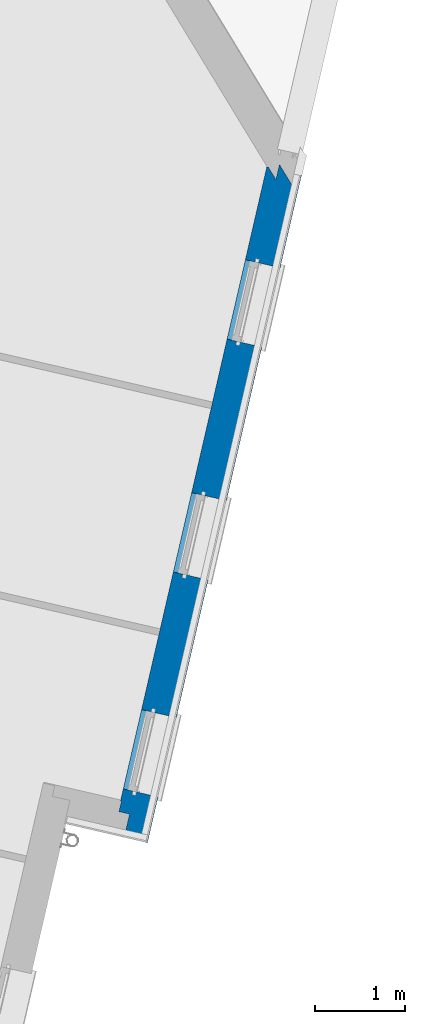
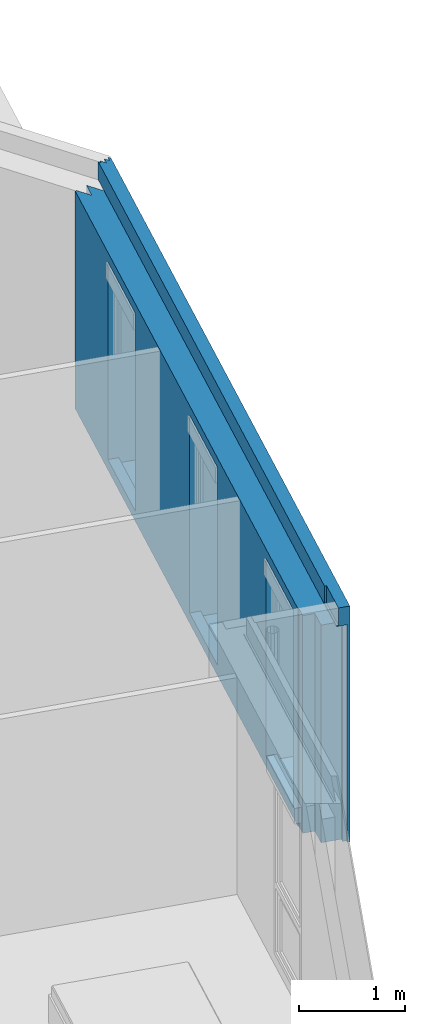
# One storey, part 32 of 91: 1 wall, 3 openings.
"""IFC2X3 building model written with IfcOpenShell, lengths in metres."""

import ifcopenshell
import ifcopenshell.guid

model = None  # the IFC model being written
_history = None  # IfcOwnerHistory: only IFC2X3 demands one
_inside = {}  # id of a spatial element -> (the spatial element, [elements in it])
_under = {}  # id of a project, library or spatial element -> (it, [spatial elements below it])
_declared = {}  # id of a project -> (the project, [libraries it declares])
_typed = {}  # id of a type object -> (the type object, [elements of that type])
_made_of = {}  # id of a material, layer set ... -> (it, [elements and type objects made of it])


def new_model(schema):
    """Start an empty IFC model of exactly this schema.

    Asked for "IFC4X3", IfcOpenShell would pick the latest addendum, in which some entities
    have other attributes; the version numbers below select the first issue.
    IFC2X3 requires an IfcOwnerHistory on every rooted entity: one is made here for all.
    """
    global model, _history
    if schema == "IFC4X3":
        model = ifcopenshell.file(schema_version=(4, 3, 0, 0))
    else:
        model = ifcopenshell.file(schema=schema)
    _inside.clear()
    _under.clear()
    _declared.clear()
    _typed.clear()
    _made_of.clear()
    _history = None
    if model.schema == "IFC2X3":
        org = make("IfcOrganization", Name="unknown")
        user = make(
            "IfcPersonAndOrganization",
            ThePerson=make("IfcPerson", FamilyName="unknown"),
            TheOrganization=org,
        )
        app = make(
            "IfcApplication",
            ApplicationDeveloper=org,
            Version="unknown",
            ApplicationFullName="unknown",
            ApplicationIdentifier="unknown",
        )
        _history = make(
            "IfcOwnerHistory",
            OwningUser=user,
            OwningApplication=app,
            ChangeAction="ADDED",
            CreationDate=0,
        )
    return model


def make(cls, **values):
    """One entity of the class cls with the attributes given. An attribute that is None is left unset."""
    return model.create_entity(
        cls, **{name: value for name, value in values.items() if value is not None}
    )


def entity(cls, *values):
    """Any entity or typed value of the class cls, its attributes in the order of the schema. None: left unset."""
    e = model.create_entity(cls)
    for i, value in enumerate(values):
        if value is not None:
            e[i] = value
    return e


def rooted(cls, **values):
    """An entity with a GlobalId (a new one), such as an element, a storey or a relation."""
    return make(cls, GlobalId=ifcopenshell.guid.new(), OwnerHistory=_history, **values)


def si_unit(unit_type, name, prefix=None):
    """IfcSIUnit, for example si_unit("LENGTHUNIT", "METRE", prefix="MILLI")."""
    return make("IfcSIUnit", UnitType=unit_type, Prefix=prefix, Name=name)


def converted_unit(unit_type, name, factor, base, dimensions=None, offset=None):
    """IfcConversionBasedUnit, such as the inch: factor (a typed value) times the base unit."""
    return make(
        "IfcConversionBasedUnit"
        if offset is None
        else "IfcConversionBasedUnitWithOffset",
        ConversionOffset=offset,
        Dimensions=None
        if dimensions is None
        else entity("IfcDimensionalExponents", *dimensions),
        UnitType=unit_type,
        Name=name,
        ConversionFactor=make(
            "IfcMeasureWithUnit", ValueComponent=factor, UnitComponent=base
        ),
    )


def derived_unit(unit_type, elements):
    """IfcDerivedUnit: a product of units, each with its exponent."""
    return make(
        "IfcDerivedUnit",
        Elements=[
            make("IfcDerivedUnitElement", Unit=unit, Exponent=power)
            for unit, power in elements
        ],
        UnitType=unit_type,
    )


def money_unit(currency):
    """IfcMonetaryUnit."""
    return make("IfcMonetaryUnit", Currency=currency)


def assignment(units):
    """IfcUnitAssignment: the units of a project."""
    return None if units is None else make("IfcUnitAssignment", Units=units)


def point(xyz):
    """IfcCartesianPoint."""
    return None if xyz is None else make("IfcCartesianPoint", Coordinates=xyz)


def direction(xyz):
    """IfcDirection."""
    return None if xyz is None else make("IfcDirection", DirectionRatios=xyz)


def frame(location, z_axis=None, x_axis=None):
    """IfcAxis2Placement3D, a coordinate frame: its origin and axes. An axis left out is left unset."""
    return make(
        "IfcAxis2Placement3D",
        Location=point(location),
        Axis=direction(z_axis),
        RefDirection=direction(x_axis),
    )


def origin_with_axes():
    """The frame at (0, 0, 0) with the z axis (0, 0, 1) and the x axis (1, 0, 0) written out."""
    return frame((0.0, 0.0, 0.0), z_axis=(0.0, 0.0, 1.0), x_axis=(1.0, 0.0, 0.0))


def place(relative_to, where):
    """IfcLocalPlacement: puts the frame where relative to a parent placement (None: the world)."""
    return make(
        "IfcLocalPlacement", PlacementRelTo=relative_to, RelativePlacement=where
    )


def context(
    kind, dimensions, precision=None, world=None, true_north=None, identifier=None
):
    """IfcGeometricRepresentationContext, for example the 3D "Model" context."""
    return make(
        "IfcGeometricRepresentationContext",
        ContextIdentifier=identifier,
        ContextType=kind,
        CoordinateSpaceDimension=dimensions,
        Precision=precision,
        WorldCoordinateSystem=world,
        TrueNorth=true_north,
    )


def subcontext(parent, identifier, kind, view, scale=None):
    """IfcGeometricRepresentationSubContext, for example "Body" below "Model"."""
    return make(
        "IfcGeometricRepresentationSubContext",
        ContextIdentifier=identifier,
        ContextType=kind,
        ParentContext=parent,
        TargetScale=scale,
        TargetView=view,
    )


def project(units=None, contexts=None):
    """IfcProject with its units and contexts."""
    return rooted(
        "IfcProject",
        Name="project",
        RepresentationContexts=contexts,
        UnitsInContext=assignment(units),
    )


def spatial(cls, under=None, at=None, **own):
    """A site, building, storey or space (cls), placed at a placement, below another one or the project."""
    s = rooted(cls, ObjectPlacement=at, **own)
    if under is not None:
        _under.setdefault(under.id(), (under, []))[1].append(s)
    return s


def faces_of(points, faces, orient=None, outer=None):
    """IfcFace entities. A face is a list of loops; a loop is a list of indices into points, from 0.

    orient and outer hold one flag for each loop. By default every Orientation is true, the
    first loop of a face is its IfcFaceOuterBound and the others are IfcFaceBound.
    """
    made = []
    for i, loops in enumerate(faces):
        bounds = []
        for j, loop in enumerate(loops):
            is_outer = j == 0 if outer is None else outer[i][j]
            bounds.append(
                make(
                    "IfcFaceOuterBound" if is_outer else "IfcFaceBound",
                    Bound=make("IfcPolyLoop", Polygon=[points[k] for k in loop]),
                    Orientation=True if orient is None else orient[i][j],
                )
            )
        made.append(make("IfcFace", Bounds=bounds))
    return made


def faceted_brep(points, faces, orient=None, outer=None, voids=None):
    """IfcFacetedBrep: a solid bounded by flat faces; with voids (closed shells), ...WithVoids."""
    shared = [point(p) for p in points]
    hull = make("IfcClosedShell", CfsFaces=faces_of(shared, faces, orient, outer))
    if voids is None:
        return make("IfcFacetedBrep", Outer=hull)
    return make(
        "IfcFacetedBrepWithVoids",
        Outer=hull,
        Voids=[
            make(cls, CfsFaces=faces_of(shared, fs, o, b)) for cls, fs, o, b in voids
        ],
    )


def shape(context_of_items, identifier, shape_type, items):
    """IfcShapeRepresentation: the items that make up one representation, for example the "Body"."""
    return make(
        "IfcShapeRepresentation",
        ContextOfItems=context_of_items,
        RepresentationIdentifier=identifier,
        RepresentationType=shape_type,
        Items=items,
    )


def material(Name=None, Category=None):
    """IfcMaterial."""
    return make("IfcMaterial", Name=Name, Category=Category)


def material_list(materials):
    """IfcMaterialList."""
    return make("IfcMaterialList", Materials=materials)


def made_of(thing, what):
    """Note that an element or type object is made of a material, layer set ...; save() writes the relation."""
    if what is not None:
        _made_of.setdefault(what.id(), (what, []))[1].append(thing)
    return thing


def type_object(cls, material=None, **own):
    """A type object (cls), such as IfcWallType, which elements share."""
    return made_of(rooted(cls, **own), material)


def element(
    cls,
    number,
    at=None,
    inside=None,
    cuts=None,
    type_object=None,
    material=None,
    context=None,
    identifier="Body",
    shape_type=None,
    held_by="IfcProductDefinitionShape",
    body=None,
    shapes=None,
    **own,
):
    """One element of the class cls, such as IfcWall. Its Tag is "e" and its number.

    at: its placement. inside: the storey or other place that contains it. cuts: it is an
    opening in that element (IfcRelVoidsElement). A single representation is given by context,
    identifier, shape_type and body (its items); several are given by shapes. held_by: the class
    of the entity that holds the representations. save() writes the other relations.
    """
    e = rooted(cls, Tag="e%d" % number, ObjectPlacement=at, **own)
    if body is not None:
        shapes = [shape(context, identifier, shape_type, body)]
    if shapes is not None:
        e.Representation = make(held_by, Representations=shapes)
    if inside is not None:
        _inside.setdefault(inside.id(), (inside, []))[1].append(e)
    if cuts is not None:
        rooted(
            "IfcRelVoidsElement", RelatingBuildingElement=cuts, RelatedOpeningElement=e
        )
    if type_object is not None:
        _typed.setdefault(type_object.id(), (type_object, []))[1].append(e)
    return made_of(e, material)


def aggregate(whole, parts):
    """IfcRelAggregates: a whole, such as a stair, and the parts it consists of."""
    return rooted("IfcRelAggregates", RelatingObject=whole, RelatedObjects=parts)


def save(model, path):
    """Write the relations noted so far, then the file.

    IfcRelAggregates (storeys below a building ...), IfcRelContainedInSpatialStructure (elements
    in a storey), IfcRelDefinesByType, IfcRelAssociatesMaterial and IfcRelDeclares: one each for
    every whole, place, type object, material and project.
    """
    for whole, parts in _under.values():
        aggregate(whole, parts)
    for where, things in _inside.values():
        rooted(
            "IfcRelContainedInSpatialStructure",
            RelatedElements=things,
            RelatingStructure=where,
        )
    for kind, things in _typed.values():
        rooted("IfcRelDefinesByType", RelatedObjects=things, RelatingType=kind)
    for what, things in _made_of.values():
        rooted("IfcRelAssociatesMaterial", RelatedObjects=things, RelatingMaterial=what)
    for by, libraries in _declared.values():
        rooted("IfcRelDeclares", RelatingContext=by, RelatedDefinitions=libraries)
    model.write(path)


model = new_model("IFC2X3")

# Units and contexts
model_context = context("Model", 3, precision=1e-05, world=origin_with_axes(), true_north=direction((0.0, 1.0)))
body_context = subcontext(model_context, "Body", "Model", "MODEL_VIEW")
ifc_project = project(units=[si_unit("LENGTHUNIT", "METRE"), si_unit("AREAUNIT", "SQUARE_METRE"), si_unit("VOLUMEUNIT", "CUBIC_METRE"), converted_unit("PLANEANGLEUNIT", "DEGREE", entity("IfcPlaneAngleMeasure", 0.0174532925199), si_unit("PLANEANGLEUNIT", "RADIAN"), dimensions=[0, 0, 0, 0, 0, 0, 0]), si_unit("SOLIDANGLEUNIT", "STERADIAN"), money_unit("EUR"), converted_unit("TIMEUNIT", "Year", entity("IfcTimeMeasure", 31556926.0), si_unit("TIMEUNIT", "SECOND"), dimensions=[0, 0, 1, 0, 0, 0, 0]), si_unit("MASSUNIT", "GRAM", prefix="KILO"), si_unit("THERMODYNAMICTEMPERATUREUNIT", "DEGREE_CELSIUS"), si_unit("LUMINOUSINTENSITYUNIT", "LUMEN"), si_unit("ENERGYUNIT", "JOULE", prefix="MEGA"), derived_unit("THERMALCONDUCTANCEUNIT", [(si_unit("POWERUNIT", "WATT"), 1), (si_unit("LENGTHUNIT", "METRE"), -1), (si_unit("THERMODYNAMICTEMPERATUREUNIT", "KELVIN"), -1)]), derived_unit("SPECIFICHEATCAPACITYUNIT", [(si_unit("ENERGYUNIT", "JOULE"), 1), (si_unit("MASSUNIT", "GRAM", prefix="KILO"), -1), (si_unit("THERMODYNAMICTEMPERATUREUNIT", "KELVIN"), -1)]), derived_unit("MASSDENSITYUNIT", [(si_unit("MASSUNIT", "GRAM", prefix="KILO"), 1), (si_unit("VOLUMEUNIT", "CUBIC_METRE"), -1)])], contexts=[model_context])

# Site, building, storey
site_placement = place(None, origin_with_axes())
site = spatial("IfcSite", under=ifc_project, at=site_placement, Name="Site", CompositionType="ELEMENT")
building_placement = place(site_placement, origin_with_axes())
building = spatial("IfcBuilding", under=site, at=building_placement, Name="Bâtiment", CompositionType="ELEMENT")
storey_placement = place(building_placement, frame((0.0, 0.0, 5.44), z_axis=(0.0, 0.0, 1.0), x_axis=(1.0, 0.0, 0.0)))
storey = spatial("IfcBuildingStorey", under=building, at=storey_placement, Name="R+2", CompositionType="ELEMENT", Elevation=5.44)

# Wall, openings
ifc_material_1 = material(Name="Finition ext - Bardage bois")
ifc_material_2 = material(Name="Bois - Lattage")
ifc_material_3 = material(Name="Béton cellulaire")
ifc_material_4 = material(Name="Mortier")
ifc_material_5 = material(Name="Isolation - Polystyrène expansé")
ifc_material_6 = material(Name="Bloc ELITHERM")
ifc_material_7 = material(Name="Isolation - Polystyrène extrudé")
ifc_material_8 = material(Name="Finition int - Plaque de plâtre")
ifc_material_list = material_list([ifc_material_1, ifc_material_2, ifc_material_3, ifc_material_4, ifc_material_5, ifc_material_6, ifc_material_7, ifc_material_8])
wall_type = type_object("IfcWallType", Name="Mur ALKERN + planelle 21 BARDAGE courant 395 x 2720", PredefinedType="USERDEFINED")
wall_placement = place(storey_placement, frame((1.48840599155, 13.9724829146, 0.0), z_axis=(0.0, 0.0, 1.0), x_axis=(-0.224876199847, -0.974387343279, 0.0)))
wall = element("IfcWall", 1, at=wall_placement, inside=storey, type_object=wall_type, material=ifc_material_list, Name="Mue bloc ALKERN isolé", ObjectType="SOLIDWALL", context=body_context, shape_type="Brep", body=[
    faceted_brep([(1.27823986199, 0.0100000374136, 0.12), (1.27823986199, 0.035, 0.12), (1.27823986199, 0.035, 2.22), (1.27823986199, 0.0100000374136, 2.22), (1.27823986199, 0.0350003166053, 0.06), (1.27823986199, 0.01000000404, 0.06), (0.150454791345, 0.035, 0.4), (0.143294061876, 0.0350000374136, 0.4), (0.0931686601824, 0.0350000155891, 0.4), (0.0931689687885, 0.0350003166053, 2.72000000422), (7.80445252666, 0.0350000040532, 2.71999999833), (7.80445254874, 0.035, 2.51000000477), (7.80445254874, 0.035, 0.0), (0.150454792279, 0.035, 0.0), (0.150454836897, 0.035, 0.110000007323), (0.136133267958, 0.035, 0.110000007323), (0.136133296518, 0.035, 0.200000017), (0.0535138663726, 0.035, 0.2), (0.0535138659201, 0.0350000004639, 0.229999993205), (0.136133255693, 0.035, 0.230000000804), (0.150454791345, 0.035, 0.230000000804), (7.28324840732, 0.035, 0.06), (7.28324840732, 0.0350003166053, 0.12), (7.28324840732, 0.0350003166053, 2.22), (6.38324840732, 0.0350003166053, 2.22), (6.38324840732, 0.0350003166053, 0.12), (6.38324840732, 0.035, 0.06), (4.82071635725, 0.035, 0.06), (4.82071635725, 0.0350000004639, 0.12), (4.82071635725, 0.0350000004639, 2.22), (3.92071635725, 0.0350000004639, 2.22), (3.92071635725, 0.0350000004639, 0.12), (3.92071635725, 0.035, 0.06), (2.17823986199, 0.0350003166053, 0.06), (2.17823986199, 0.035, 0.12), (2.17823986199, 0.035, 2.22), (2.17823986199, 0.0100000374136, 2.22), (0.124824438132, 0.01, 0.0), (7.80445254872, 0.01, 0.0), (7.80445254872, 0.01, 2.51000000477), (7.80445252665, 0.01000000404, 2.71999999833), (0.0675386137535, 0.0100003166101, 2.72000000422), (0.0675383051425, 0.0100000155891, 0.4), (0.117663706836, 0.0100000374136, 0.4), (0.124824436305, 0.01, 0.4), (0.124824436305, 0.01, 0.230000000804), (0.110502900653, 0.01, 0.230000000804), (0.0278835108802, 0.0100000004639, 0.229999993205), (0.0278835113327, 0.01, 0.2), (0.110502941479, 0.01, 0.200000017), (0.110502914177, 0.01, 0.110000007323), (0.124824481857, 0.01, 0.110000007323), (6.38324840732, 0.01, 0.06), (6.38324840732, 0.01000000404, 0.12), (6.38324840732, 0.01000000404, 2.22), (7.28324840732, 0.01000000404, 2.22), (7.28324840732, 0.01000000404, 0.12), (7.28324840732, 0.01, 0.06), (3.92071635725, 0.01, 0.06), (3.92071635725, 0.01, 0.12), (3.92071635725, 0.01, 2.22), (4.82071635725, 0.01, 2.22), (4.82071635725, 0.01, 0.12), (4.82071635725, 0.01, 0.06), (2.17823986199, 0.0100000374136, 0.12), (2.17823986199, 0.01000000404, 0.06)], [[[0, 1, 2, 3]], [[4, 1, 0, 5]], [[6, 7, 8, 9, 10, 11, 12, 13, 14, 15, 16, 17, 18, 19, 20], [21, 22, 23, 24, 25, 26], [27, 28, 29, 30, 31, 32], [33, 34, 35, 2, 1, 4]], [[35, 36, 3, 2]], [[37, 38, 39, 40, 41, 42, 43, 44, 45, 46, 47, 48, 49, 50, 51], [52, 53, 54, 55, 56, 57], [58, 59, 60, 61, 62, 63], [5, 0, 3, 36, 64, 65]], [[33, 4, 5, 65]], [[7, 6, 44, 43]], [[8, 7, 43, 42]], [[9, 8, 42, 41]], [[41, 40, 10, 9]], [[39, 11, 10, 40]], [[12, 11, 39, 38]], [[12, 38, 37, 13]], [[14, 13, 37, 51]], [[15, 14, 51, 50]], [[16, 15, 50, 49]], [[17, 16, 49, 48]], [[18, 17, 48, 47]], [[18, 47, 46, 19]], [[19, 46, 45, 20]], [[20, 45, 44, 6]], [[56, 22, 21, 57]], [[22, 56, 55, 23]], [[23, 55, 54, 24]], [[53, 25, 24, 54]], [[26, 25, 53, 52]], [[21, 26, 52, 57]], [[27, 63, 62, 28]], [[61, 29, 28, 62]], [[60, 30, 29, 61]], [[30, 60, 59, 31]], [[59, 58, 32, 31]], [[58, 63, 27, 32]], [[64, 34, 33, 65]], [[34, 64, 36, 35]]]),
    faceted_brep([(1.27823986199, -0.0299999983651, 0.12), (1.27823986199, 0.00999999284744, 0.12), (1.27823986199, 0.00999999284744, 2.22), (1.27823986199, -0.0299999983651, 2.22), (1.27823986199, 0.00999999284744, 0.06), (1.27823986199, -0.0300000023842, 0.06), (7.7794525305, 0.00999999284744, 0.0), (0.124824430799, 0.00999999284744, 0.0), (0.124824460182, 0.0100000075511, 0.109999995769), (0.124824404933, 0.00999999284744, 0.2), (0.124824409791, 0.00999997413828, 0.230000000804), (0.124824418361, 0.0100000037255, 0.399999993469), (0.124824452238, 0.00999999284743, 2.50999999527), (0.124824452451, 0.00999999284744, 2.52000000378), (0.12482477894, 0.0100003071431, 2.72000000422), (7.80445252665, 0.00999999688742, 2.71999999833), (7.8044525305, 0.00999999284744, 2.51000000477), (7.7794525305, 0.00999999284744, 2.51000000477), (7.28324840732, 0.00999999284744, 0.06), (7.28324840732, 0.00999999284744, 0.12), (7.28324840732, 0.00999999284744, 2.22), (6.38324840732, 0.00999999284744, 2.22), (6.38324840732, 0.00999999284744, 0.12), (6.38324840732, 0.00999999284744, 0.06), (4.82071635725, 0.00999999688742, 0.06), (4.82071635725, 0.00999999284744, 0.12), (4.82071635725, 0.00999999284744, 2.22), (3.92071635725, 0.00999999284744, 2.22), (3.92071635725, 0.00999999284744, 0.12), (3.92071635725, 0.00999999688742, 0.06), (2.17823986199, 0.00999999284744, 0.06), (2.17823986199, 0.00999999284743, 0.12), (2.17823986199, 0.00999999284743, 2.22), (2.17823986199, -0.0299999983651, 2.22), (0.083815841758, -0.0300000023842, 0.2), (0.0838158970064, -0.0299999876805, 0.109999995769), (0.0838158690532, -0.0300000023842, 0.0), (7.77945253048, -0.0300000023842, 0.0), (7.77945253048, -0.0300000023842, 2.51000000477), (7.80445253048, -0.0300000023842, 2.51000000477), (7.80445252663, -0.0299999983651, 2.71999999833), (0.0838162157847, -0.029999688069, 2.72000000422), (0.0838158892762, -0.0300000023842, 2.52000000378), (0.0838158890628, -0.0300000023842, 2.50999999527), (0.083815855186, -0.0299999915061, 0.399999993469), (0.0838158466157, -0.0300000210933, 0.230000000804), (6.38324840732, -0.0300000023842, 0.06), (6.38324840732, -0.0299999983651, 0.12), (6.38324840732, -0.0299999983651, 2.22), (7.28324840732, -0.0299999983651, 2.22), (7.28324840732, -0.0299999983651, 0.12), (7.28324840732, -0.0300000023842, 0.06), (3.92071635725, -0.0300000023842, 0.06), (3.92071635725, -0.0300000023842, 0.12), (3.92071635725, -0.0300000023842, 2.22), (4.82071635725, -0.0300000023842, 2.22), (4.82071635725, -0.0300000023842, 0.12), (4.82071635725, -0.0300000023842, 0.06), (2.17823986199, -0.0299999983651, 0.12), (2.17823986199, -0.0300000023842, 0.06)], [[[0, 1, 2, 3]], [[4, 1, 0, 5]], [[6, 7, 8, 9, 10, 11, 12, 13, 14, 15, 16, 17], [18, 19, 20, 21, 22, 23], [24, 25, 26, 27, 28, 29], [30, 31, 32, 2, 1, 4]], [[32, 33, 3, 2]], [[34, 35, 36, 37, 38, 39, 40, 41, 42, 43, 44, 45], [46, 47, 48, 49, 50, 51], [52, 53, 54, 55, 56, 57], [5, 0, 3, 33, 58, 59]], [[30, 4, 5, 59]], [[37, 36, 7, 6]], [[7, 36, 35, 8]], [[9, 8, 35, 34]], [[9, 34, 45, 10]], [[44, 11, 10, 45]], [[44, 43, 12, 11]], [[13, 12, 43, 42]], [[14, 13, 42, 41]], [[41, 40, 15, 14]], [[16, 15, 40, 39]], [[16, 39, 38, 17]], [[17, 38, 37, 6]], [[50, 19, 18, 51]], [[19, 50, 49, 20]], [[20, 49, 48, 21]], [[47, 22, 21, 48]], [[23, 22, 47, 46]], [[18, 23, 46, 51]], [[24, 57, 56, 25]], [[55, 26, 25, 56]], [[54, 27, 26, 55]], [[27, 54, 53, 28]], [[53, 52, 29, 28]], [[52, 57, 24, 29]], [[58, 31, 30, 59]], [[31, 58, 33, 32]]]),
    faceted_brep([(0.152559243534, -0.03, 2.52000000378), (0.152559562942, -0.0299996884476, 2.72000000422), (7.80445252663, -0.029999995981, 2.71999999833), (7.80445252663, -0.03, 2.51999999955), (0.103349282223, -0.0779996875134, 2.72000000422), (0.103348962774, -0.0779999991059, 2.52000000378), (7.8044525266, -0.0779999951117, 2.71999999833), (7.8044525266, -0.0779999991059, 2.51999999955)], [[[0, 1, 2, 3]], [[4, 1, 0, 5]], [[1, 4, 6, 2]], [[7, 3, 2, 6]], [[5, 0, 3, 7]], [[4, 5, 7, 6]]]),
    faceted_brep([(0.181202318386, -0.03, 2.51000000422), (0.181202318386, -0.03, 2.52000000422), (7.80445252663, -0.03, 2.52), (7.80445252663, -0.03, 2.51), (0.111487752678, -0.098, 2.52000000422), (0.111487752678, -0.098, 2.51000000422), (7.80445252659, -0.098, 2.52), (7.80445252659, -0.098, 2.51)], [[[0, 1, 2, 3]], [[4, 1, 0, 5]], [[1, 4, 6, 2]], [[7, 3, 2, 6]], [[5, 0, 3, 7]], [[4, 5, 7, 6]]]),
    faceted_brep([(0.111488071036, -0.0979996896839, 2.72000000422), (7.41945252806, -0.0979999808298, 2.71999999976), (7.41945252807, -0.0779999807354, 2.71999999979), (0.131992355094, -0.0779996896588, 2.72000000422), (0.11148775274, -0.098000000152, 2.52000000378), (7.41945252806, -0.098000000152, 2.51999999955), (7.41945252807, -0.0780000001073, 2.51999999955), (0.131992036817, -0.0780000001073, 2.52000000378)], [[[0, 1, 2, 3]], [[4, 5, 1, 0]], [[5, 6, 2, 1]], [[3, 2, 6, 7]], [[4, 0, 3, 7]], [[7, 6, 5, 4]]]),
    faceted_brep([(1.27823986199, -0.21, 0.12), (1.27823986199, -0.03, 0.12), (1.27823986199, -0.03, 2.22), (1.27823986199, -0.18, 2.22), (1.27823986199, -0.21, 2.22), (1.27823986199, -0.03, 0.06), (1.27823986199, -0.229999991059, 0.12), (1.27823986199, -0.229999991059, 0.06), (0.370246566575, -0.03, 0.2), (0.370246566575, -0.03, 0.229999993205), (0.370246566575, -0.03, 0.399999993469), (0.370246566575, -0.03, 2.50999999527), (7.73945252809, -0.03, 2.51000000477), (7.73945252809, -0.03, 0.0), (0.370246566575, -0.03, 0.0), (0.370246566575, -0.03, 0.109999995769), (7.28324840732, -0.03, 0.06), (7.28324840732, -0.03, 0.12), (7.28324840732, -0.03, 2.22), (6.38324840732, -0.03, 2.22), (6.38324840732, -0.03, 0.12), (6.38324840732, -0.03, 0.06), (4.82071635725, -0.03, 0.06), (4.82071635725, -0.03, 0.12), (4.82071635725, -0.03, 2.22), (3.92071635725, -0.03, 2.22), (3.92071635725, -0.03, 0.12), (3.92071635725, -0.03, 0.06), (2.17823986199, -0.03, 0.06), (2.17823986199, -0.03, 0.12), (2.17823986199, -0.03, 2.22), (2.17823986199, -0.18, 2.22), (1.27823986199, -0.18, 2.4), (1.27823986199, -0.229999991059, 2.4), (1.27823986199, -0.229999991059, 2.22), (0.165203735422, -0.229999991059, 0.229999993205), (0.165203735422, -0.229999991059, 0.2), (0.165203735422, -0.229999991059, 0.109999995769), (0.165203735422, -0.229999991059, 0.0), (7.73945252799, -0.229999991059, 0.0), (7.73945252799, -0.229999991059, 2.51000000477), (0.165203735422, -0.229999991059, 2.50999999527), (0.165203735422, -0.229999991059, 0.399999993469), (6.38324840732, -0.229999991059, 0.06), (6.38324840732, -0.229999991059, 0.12), (6.38324840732, -0.229999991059, 2.22), (6.38324840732, -0.229999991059, 2.4), (7.28324840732, -0.229999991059, 2.4), (7.28324840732, -0.229999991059, 2.22), (7.28324840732, -0.229999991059, 0.12), (7.28324840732, -0.229999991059, 0.06), (4.82071635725, -0.229999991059, 2.4), (4.82071635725, -0.229999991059, 2.22), (4.82071635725, -0.229999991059, 0.12), (4.82071635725, -0.229999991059, 0.06), (3.92071635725, -0.229999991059, 0.06), (3.92071635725, -0.229999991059, 0.12), (3.92071635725, -0.229999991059, 2.22), (3.92071635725, -0.229999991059, 2.4), (2.17823986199, -0.229999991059, 2.4), (2.17823986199, -0.229999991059, 2.22), (2.17823986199, -0.229999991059, 0.12), (2.17823986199, -0.229999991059, 0.06), (0.300532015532, -0.0979999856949, 2.50999999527), (7.73945252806, -0.0979999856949, 2.51000000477), (7.28324840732, -0.21, 0.12), (7.28324840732, -0.21, 2.22), (7.28324840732, -0.18, 2.22), (6.38324840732, -0.18, 2.22), (6.38324840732, -0.21, 2.22), (6.38324840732, -0.21, 0.12), (4.82071635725, -0.21, 0.12), (4.82071635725, -0.18, 2.22), (4.82071635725, -0.21, 2.22), (3.92071635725, -0.18, 2.22), (3.92071635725, -0.21, 2.22), (3.92071635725, -0.21, 0.12), (2.17823986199, -0.21, 0.12), (2.17823986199, -0.21, 2.22), (2.17823986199, -0.18, 2.4), (6.38324840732, -0.18, 2.4), (7.28324840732, -0.18, 2.4), (4.82071635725, -0.18, 2.4), (3.92071635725, -0.18, 2.4)], [[[0, 1, 2, 3, 4]], [[5, 1, 0, 6, 7]], [[8, 9, 10, 11, 12, 13, 14, 15], [16, 17, 18, 19, 20, 21], [22, 23, 24, 25, 26, 27], [28, 29, 30, 2, 1, 5]], [[3, 2, 30, 31]], [[32, 33, 34, 4, 3]], [[6, 0, 4, 34]], [[35, 36, 37, 38, 39, 40, 41, 42], [43, 44, 45, 46, 47, 48, 49, 50], [51, 52, 53, 54, 55, 56, 57, 58], [7, 6, 34, 33, 59, 60, 61, 62]], [[28, 5, 7, 62]], [[35, 9, 8, 36]], [[42, 10, 9, 35]], [[41, 63, 11, 10, 42]], [[64, 12, 11, 63]], [[39, 13, 12, 64, 40]], [[13, 39, 38, 14]], [[37, 15, 14, 38]], [[36, 8, 15, 37]], [[17, 16, 50, 49, 65]], [[65, 66, 67, 18, 17]], [[68, 19, 18, 67]], [[20, 19, 68, 69, 70]], [[20, 70, 44, 43, 21]], [[16, 21, 43, 50]], [[54, 53, 71, 23, 22]], [[72, 24, 23, 71, 73]], [[74, 25, 24, 72]], [[74, 75, 76, 26, 25]], [[56, 55, 27, 26, 76]], [[22, 27, 55, 54]], [[77, 29, 28, 62, 61]], [[29, 77, 78, 31, 30]], [[31, 79, 32, 3]], [[33, 32, 79, 59]], [[40, 64, 63, 41]], [[44, 70, 69, 45]], [[46, 45, 69, 68, 80]], [[46, 80, 81, 47]], [[47, 81, 67, 66, 48]], [[65, 49, 48, 66]], [[72, 73, 52, 51, 82]], [[71, 53, 52, 73]], [[56, 76, 75, 57]], [[75, 74, 83, 58, 57]], [[58, 83, 82, 51]], [[60, 59, 79, 31, 78]], [[77, 61, 60, 78]], [[67, 81, 80, 68]], [[72, 82, 83, 74]]]),
    faceted_brep([(1.27823986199, -0.251, 0.12), (1.27823986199, -0.230000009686, 0.12), (1.27823986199, -0.230000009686, 2.22), (1.27823986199, -0.350000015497, 2.22), (1.27823986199, -0.350000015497, 0.12), (1.27823986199, -0.230000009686, 0.06), (1.27823986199, -0.251, 0.06), (0.337062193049, -0.230000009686, 0.2), (0.337062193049, -0.230000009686, 0.229999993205), (0.337062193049, -0.230000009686, 0.399999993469), (0.337062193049, -0.230000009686, 2.51000000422), (7.53945253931, -0.230000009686, 2.51000000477), (7.53945253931, -0.230000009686, 0.0), (0.337062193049, -0.230000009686, 0.0), (0.337062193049, -0.230000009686, 0.109999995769), (6.38324840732, -0.230000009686, 0.12), (6.38324840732, -0.230000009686, 0.06), (7.28324840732, -0.230000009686, 0.06), (7.28324840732, -0.230000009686, 0.12), (7.28324840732, -0.230000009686, 2.22), (7.28324840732, -0.230000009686, 2.4), (6.38324840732, -0.230000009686, 2.4), (6.38324840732, -0.230000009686, 2.22), (3.92071635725, -0.230000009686, 0.06), (4.82071635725, -0.230000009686, 0.06), (4.82071635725, -0.230000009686, 0.12), (4.82071635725, -0.230000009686, 2.22), (4.82071635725, -0.230000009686, 2.4), (3.92071635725, -0.230000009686, 2.4), (3.92071635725, -0.230000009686, 2.22), (3.92071635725, -0.230000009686, 0.12), (2.17823986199, -0.230000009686, 0.06), (2.17823986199, -0.230000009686, 0.12), (2.17823986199, -0.230000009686, 2.22), (2.17823986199, -0.230000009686, 2.4), (1.27823986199, -0.230000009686, 2.4), (1.27823986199, -0.350000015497, 2.4), (0.214036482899, -0.350000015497, 0.229999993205), (0.214036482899, -0.350000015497, 0.2), (0.214036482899, -0.350000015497, 0.109999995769), (0.214036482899, -0.350000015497, 0.0), (7.53945253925, -0.350000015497, 0.0), (7.53945253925, -0.350000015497, 2.51000000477), (0.214036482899, -0.350000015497, 2.51000000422), (0.214036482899, -0.350000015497, 0.399999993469), (6.38324840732, -0.350000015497, 0.12), (6.38324840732, -0.350000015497, 2.22), (6.38324840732, -0.350000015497, 2.4), (7.28324840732, -0.350000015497, 2.4), (7.28324840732, -0.350000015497, 2.22), (7.28324840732, -0.350000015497, 0.12), (4.82071635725, -0.350000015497, 2.4), (4.82071635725, -0.350000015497, 2.22), (4.82071635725, -0.350000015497, 0.12), (3.92071635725, -0.350000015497, 0.12), (3.92071635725, -0.350000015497, 2.22), (3.92071635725, -0.350000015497, 2.4), (2.17823986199, -0.350000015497, 2.4), (2.17823986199, -0.350000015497, 2.22), (2.17823986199, -0.350000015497, 0.12), (2.17823986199, -0.251, 0.12), (2.17823986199, -0.251, 0.06), (6.38324840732, -0.251, 0.12), (6.38324840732, -0.251, 0.06), (7.28324840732, -0.251, 0.06), (7.28324840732, -0.251, 0.12), (4.82071635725, -0.251, 0.06), (3.92071635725, -0.251, 0.06), (4.82071635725, -0.251, 0.12), (3.92071635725, -0.251, 0.12)], [[[0, 1, 2, 3, 4]], [[5, 1, 0, 6]], [[7, 8, 9, 10, 11, 12, 13, 14], [15, 16, 17, 18, 19, 20, 21, 22], [23, 24, 25, 26, 27, 28, 29, 30], [31, 32, 33, 34, 35, 2, 1, 5]], [[35, 36, 3, 2]], [[37, 38, 39, 40, 41, 42, 43, 44], [45, 46, 47, 48, 49, 50], [51, 52, 53, 54, 55, 56], [4, 3, 36, 57, 58, 59]], [[60, 0, 4, 59]], [[0, 60, 61, 6]], [[31, 5, 6, 61]], [[37, 8, 7, 38]], [[44, 9, 8, 37]], [[43, 10, 9, 44]], [[42, 11, 10, 43]], [[12, 11, 42, 41]], [[12, 41, 40, 13]], [[39, 14, 13, 40]], [[38, 7, 14, 39]], [[62, 63, 16, 15]], [[63, 64, 17, 16]], [[17, 64, 65, 18]], [[50, 49, 19, 18, 65]], [[48, 20, 19, 49]], [[47, 21, 20, 48]], [[46, 22, 21, 47]], [[22, 46, 45, 62, 15]], [[66, 24, 23, 67]], [[66, 68, 25, 24]], [[68, 53, 52, 26, 25]], [[27, 26, 52, 51]], [[28, 27, 51, 56]], [[29, 28, 56, 55]], [[30, 29, 55, 54, 69]], [[67, 23, 30, 69]], [[60, 32, 31, 61]], [[32, 60, 59, 58, 33]], [[33, 58, 57, 34]], [[34, 57, 36, 35]], [[45, 50, 65, 62]], [[53, 68, 69, 54]], [[64, 63, 62, 65]], [[67, 69, 68, 66]]]),
    faceted_brep([(0.228358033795, -0.350000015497, 0.229999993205), (0.228358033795, -0.350000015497, 0.399999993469), (0.228358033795, -0.350000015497, 2.51000000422), (7.41945251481, -0.350000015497, 2.51000000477), (7.41945251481, -0.350000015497, 0.0), (0.228358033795, -0.350000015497, 0.0), (0.228358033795, -0.350000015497, 0.109999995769), (0.228358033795, -0.350000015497, 0.2), (7.28324840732, -0.350000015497, 2.22), (7.28324840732, -0.350000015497, 2.4), (6.38324840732, -0.350000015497, 2.4), (6.38324840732, -0.350000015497, 2.22), (6.38324840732, -0.350000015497, 0.12), (7.28324840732, -0.350000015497, 0.12), (4.82071635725, -0.350000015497, 2.22), (4.82071635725, -0.350000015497, 2.4), (3.92071635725, -0.350000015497, 2.4), (3.92071635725, -0.350000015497, 2.22), (3.92071635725, -0.350000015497, 0.12), (4.82071635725, -0.350000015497, 0.12), (2.17823986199, -0.350000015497, 2.22), (2.17823986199, -0.350000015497, 2.4), (1.27823986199, -0.350000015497, 2.4), (1.27823986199, -0.350000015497, 2.22), (1.27823986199, -0.350000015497, 0.12), (2.17823986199, -0.350000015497, 0.12), (0.218105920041, -0.35999998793, 0.229999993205), (0.218105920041, -0.35999998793, 0.399999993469), (0.218105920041, -0.35999998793, 2.51000000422), (7.41945251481, -0.35999998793, 2.51000000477), (7.41945251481, -0.35999998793, 0.0), (0.218105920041, -0.35999998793, 0.0), (0.218105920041, -0.35999998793, 0.109999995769), (0.218105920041, -0.35999998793, 0.2), (7.28324840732, -0.35999998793, 2.22), (7.28324840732, -0.35999998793, 2.4), (6.38324840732, -0.35999998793, 2.4), (6.38324840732, -0.35999998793, 2.22), (6.38324840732, -0.35999998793, 0.12), (7.28324840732, -0.35999998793, 0.12), (4.82071635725, -0.35999998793, 2.22), (4.82071635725, -0.35999998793, 2.4), (3.92071635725, -0.35999998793, 2.4), (3.92071635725, -0.35999998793, 2.22), (3.92071635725, -0.35999998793, 0.12), (4.82071635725, -0.35999998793, 0.12), (2.17823986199, -0.35999998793, 2.22), (2.17823986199, -0.35999998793, 2.4), (1.27823986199, -0.35999998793, 2.4), (1.27823986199, -0.35999998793, 2.22), (1.27823986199, -0.35999998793, 0.12), (2.17823986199, -0.35999998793, 0.12)], [[[0, 1, 2, 3, 4, 5, 6, 7], [8, 9, 10, 11, 12, 13], [14, 15, 16, 17, 18, 19], [20, 21, 22, 23, 24, 25]], [[1, 0, 26, 27]], [[2, 1, 27, 28]], [[3, 2, 28, 29]], [[3, 29, 30, 4]], [[30, 31, 5, 4]], [[6, 5, 31, 32]], [[7, 6, 32, 33]], [[0, 7, 33, 26]], [[9, 8, 34, 35]], [[10, 9, 35, 36]], [[11, 10, 36, 37]], [[11, 37, 38, 12]], [[12, 38, 39, 13]], [[34, 8, 13, 39]], [[40, 41, 15, 14]], [[41, 42, 16, 15]], [[42, 43, 17, 16]], [[44, 18, 17, 43]], [[45, 19, 18, 44]], [[19, 45, 40, 14]], [[21, 20, 46, 47]], [[22, 21, 47, 48]], [[23, 22, 48, 49]], [[23, 49, 50, 24]], [[24, 50, 51, 25]], [[46, 20, 25, 51]], [[33, 32, 31, 30, 29, 28, 27, 26], [35, 34, 39, 38, 37, 36], [41, 40, 45, 44, 43, 42], [47, 46, 51, 50, 49, 48]]]),
])
opening_1_placement = place(wall_placement, frame((6.83324840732, 0.0, 0.12), z_axis=(0.0, 0.0, 1.0), x_axis=(1.0, 0.0, 0.0)))
element("IfcOpeningElement", 2, at=opening_1_placement, cuts=wall, Name="MEN 68", context=body_context, shape_type="Brep", body=[
    faceted_brep([(0.45, -0.84999998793, 0.0), (-0.45, -0.84999998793, 0.0), (-0.45, -0.21, 0.0), (0.45, -0.21, 0.0), (0.45, -0.84999998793, 2.1), (-0.45, -0.84999998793, 2.1), (-0.45, -0.21, 2.1), (0.45, -0.21, 2.1)], [[[0, 1, 2, 3]], [[0, 4, 5, 1]], [[1, 5, 6, 2]], [[3, 2, 6, 7]], [[4, 0, 3, 7]], [[5, 4, 7, 6]]]),
    faceted_brep([(0.45, 0.42999998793, 0.0), (0.45, 0.42999998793, 2.1), (0.45, -0.21, 2.1), (0.45, -0.21, 0.0), (-0.45, 0.42999998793, 0.0), (-0.45, 0.42999998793, 2.1), (-0.45, -0.21, 2.1), (-0.45, -0.21, 0.0)], [[[0, 1, 2, 3]], [[0, 4, 5, 1]], [[1, 5, 6, 2]], [[3, 2, 6, 7]], [[4, 0, 3, 7]], [[5, 4, 7, 6]]]),
    faceted_brep([(0.45, 0.42999998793, 0.0), (0.45, 0.42999998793, 2.1), (0.45, -0.21, 2.1), (0.45, -0.21, 0.0), (-0.45, 0.42999998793, 0.0), (-0.45, 0.42999998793, 2.1), (-0.45, -0.21, 2.1), (-0.45, -0.21, 0.0)], [[[0, 1, 2, 3]], [[0, 4, 5, 1]], [[1, 5, 6, 2]], [[3, 2, 6, 7]], [[4, 0, 3, 7]], [[5, 4, 7, 6]]]),
    faceted_brep([(0.45, -0.81999998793, 2.1), (-0.45, -0.81999998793, 2.1), (-0.45, -0.18, 2.1), (0.45, -0.18, 2.1), (0.45, -0.81999998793, 2.28), (-0.45, -0.81999998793, 2.28), (-0.45, -0.18, 2.28), (0.45, -0.18, 2.28)], [[[0, 1, 2, 3]], [[0, 4, 5, 1]], [[1, 5, 6, 2]], [[3, 2, 6, 7]], [[4, 0, 3, 7]], [[5, 4, 7, 6]]]),
    faceted_brep([(0.45, 0.38899998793, 0.0), (-0.45, 0.38899998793, 0.0), (-0.45, -0.251, 0.0), (0.45, -0.251, 0.0), (0.45, 0.38899998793, -0.06), (-0.45, 0.38899998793, -0.06), (-0.45, -0.251, -0.06), (0.45, -0.251, -0.06)], [[[0, 1, 2, 3]], [[0, 4, 5, 1]], [[1, 5, 6, 2]], [[3, 2, 6, 7]], [[4, 0, 3, 7]], [[5, 4, 7, 6]]]),
])
opening_2_placement = place(wall_placement, frame((4.37071635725, 0.0, 0.12), z_axis=(0.0, 0.0, 1.0), x_axis=(1.0, 0.0, 0.0)))
element("IfcOpeningElement", 3, at=opening_2_placement, cuts=wall, Name="MEN 69", context=body_context, shape_type="Brep", body=[
    faceted_brep([(-0.45, -0.21, 0.0), (0.45, -0.21, 0.0), (0.45, -0.84999998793, 0.0), (-0.45, -0.84999998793, 0.0), (-0.45, -0.21, 2.1), (0.45, -0.21, 2.1), (0.45, -0.84999998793, 2.1), (-0.45, -0.84999998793, 2.1)], [[[0, 1, 2, 3]], [[0, 4, 5, 1]], [[1, 5, 6, 2]], [[3, 2, 6, 7]], [[4, 0, 3, 7]], [[5, 4, 7, 6]]]),
    faceted_brep([(-0.45, -0.21, 0.0), (-0.45, -0.21, 2.1), (-0.45, 0.42999998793, 2.1), (-0.45, 0.42999998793, 0.0), (0.45, -0.21, 0.0), (0.45, -0.21, 2.1), (0.45, 0.42999998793, 2.1), (0.45, 0.42999998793, 0.0)], [[[0, 1, 2, 3]], [[0, 4, 5, 1]], [[1, 5, 6, 2]], [[3, 2, 6, 7]], [[4, 0, 3, 7]], [[5, 4, 7, 6]]]),
    faceted_brep([(-0.45, -0.21, 0.0), (-0.45, -0.21, 2.1), (-0.45, 0.42999998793, 2.1), (-0.45, 0.42999998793, 0.0), (0.45, -0.21, 0.0), (0.45, -0.21, 2.1), (0.45, 0.42999998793, 2.1), (0.45, 0.42999998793, 0.0)], [[[0, 1, 2, 3]], [[0, 4, 5, 1]], [[1, 5, 6, 2]], [[3, 2, 6, 7]], [[4, 0, 3, 7]], [[5, 4, 7, 6]]]),
    faceted_brep([(-0.45, -0.18, 2.1), (0.45, -0.18, 2.1), (0.45, -0.81999998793, 2.1), (-0.45, -0.81999998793, 2.1), (-0.45, -0.18, 2.28), (0.45, -0.18, 2.28), (0.45, -0.81999998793, 2.28), (-0.45, -0.81999998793, 2.28)], [[[0, 1, 2, 3]], [[0, 4, 5, 1]], [[1, 5, 6, 2]], [[3, 2, 6, 7]], [[4, 0, 3, 7]], [[5, 4, 7, 6]]]),
    faceted_brep([(-0.45, -0.251, 0.0), (0.45, -0.251, 0.0), (0.45, 0.38899998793, 0.0), (-0.45, 0.38899998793, 0.0), (-0.45, -0.251, -0.06), (0.45, -0.251, -0.06), (0.45, 0.38899998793, -0.06), (-0.45, 0.38899998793, -0.06)], [[[0, 1, 2, 3]], [[0, 4, 5, 1]], [[1, 5, 6, 2]], [[3, 2, 6, 7]], [[4, 0, 3, 7]], [[5, 4, 7, 6]]]),
])
opening_3_placement = place(wall_placement, frame((1.72823986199, 0.0, 0.12), z_axis=(0.0, 0.0, 1.0), x_axis=(1.0, 0.0, 0.0)))
element("IfcOpeningElement", 4, at=opening_3_placement, cuts=wall, Name="MEN 70", context=body_context, shape_type="Brep", body=[
    faceted_brep([(-0.45, -0.21, 0.0), (0.45, -0.21, 0.0), (0.45, -0.84999998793, 0.0), (-0.45, -0.84999998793, 0.0), (-0.45, -0.21, 2.1), (0.45, -0.21, 2.1), (0.45, -0.84999998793, 2.1), (-0.45, -0.84999998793, 2.1)], [[[0, 1, 2, 3]], [[0, 4, 5, 1]], [[1, 5, 6, 2]], [[3, 2, 6, 7]], [[4, 0, 3, 7]], [[5, 4, 7, 6]]]),
    faceted_brep([(-0.45, -0.21, 0.0), (-0.45, -0.21, 2.1), (-0.45, 0.42999998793, 2.1), (-0.45, 0.42999998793, 0.0), (0.45, -0.21, 0.0), (0.45, -0.21, 2.1), (0.45, 0.42999998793, 2.1), (0.45, 0.42999998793, 0.0)], [[[0, 1, 2, 3]], [[0, 4, 5, 1]], [[1, 5, 6, 2]], [[3, 2, 6, 7]], [[4, 0, 3, 7]], [[5, 4, 7, 6]]]),
    faceted_brep([(-0.45, -0.21, 0.0), (-0.45, -0.21, 2.1), (-0.45, 0.42999998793, 2.1), (-0.45, 0.42999998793, 0.0), (0.45, -0.21, 0.0), (0.45, -0.21, 2.1), (0.45, 0.42999998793, 2.1), (0.45, 0.42999998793, 0.0)], [[[0, 1, 2, 3]], [[0, 4, 5, 1]], [[1, 5, 6, 2]], [[3, 2, 6, 7]], [[4, 0, 3, 7]], [[5, 4, 7, 6]]]),
    faceted_brep([(-0.45, -0.18, 2.1), (0.45, -0.18, 2.1), (0.45, -0.81999998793, 2.1), (-0.45, -0.81999998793, 2.1), (-0.45, -0.18, 2.28), (0.45, -0.18, 2.28), (0.45, -0.81999998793, 2.28), (-0.45, -0.81999998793, 2.28)], [[[0, 1, 2, 3]], [[0, 4, 5, 1]], [[1, 5, 6, 2]], [[3, 2, 6, 7]], [[4, 0, 3, 7]], [[5, 4, 7, 6]]]),
    faceted_brep([(-0.45, -0.251, 0.0), (0.45, -0.251, 0.0), (0.45, 0.38899998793, 0.0), (-0.45, 0.38899998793, 0.0), (-0.45, -0.251, -0.06), (0.45, -0.251, -0.06), (0.45, 0.38899998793, -0.06), (-0.45, 0.38899998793, -0.06)], [[[0, 1, 2, 3]], [[0, 4, 5, 1]], [[1, 5, 6, 2]], [[3, 2, 6, 7]], [[4, 0, 3, 7]], [[5, 4, 7, 6]]]),
])

save(model, "model.ifc")
